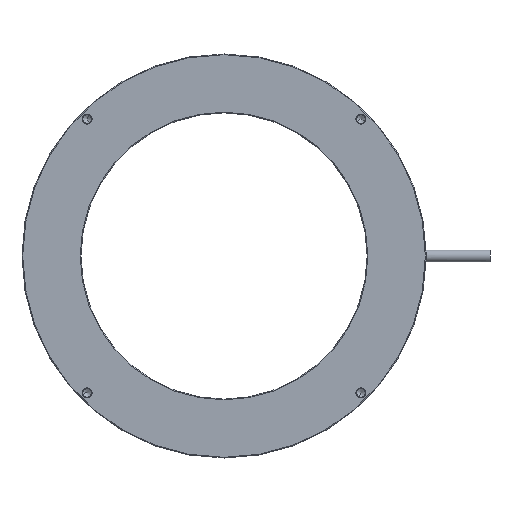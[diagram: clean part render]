
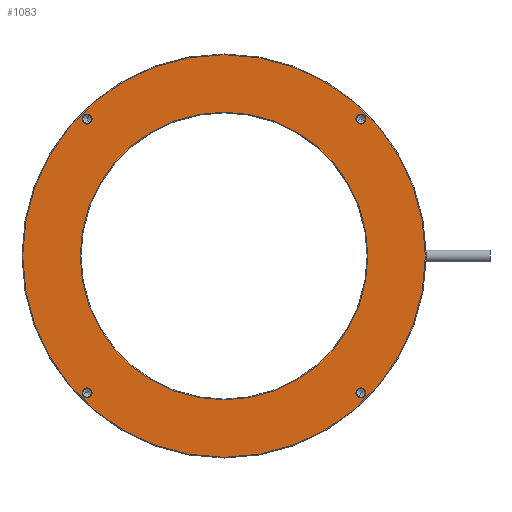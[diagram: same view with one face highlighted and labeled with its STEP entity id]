
A CAD part, front view. The second image highlights one B-rep face of the part: STEP entity #1083.
In plain terms, the highlighted planar face has unit normal (0, -1, 0).
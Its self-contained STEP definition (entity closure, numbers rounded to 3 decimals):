
#1=CARTESIAN_POINT('',(0.,-9.,0.));
#2=DIRECTION('',(0.,1.,0.));
#3=DIRECTION('',(-1.,0.,0.));
#4=AXIS2_PLACEMENT_3D('',#1,#2,#3);
#14=CARTESIAN_POINT('',(0.,-9.,0.));
#15=DIRECTION('',(0.,-1.,0.));
#16=DIRECTION('',(-1.,0.,0.));
#17=AXIS2_PLACEMENT_3D('',#14,#15,#16);
#313=CARTESIAN_POINT('',(0.,-9.,0.));
#314=DIRECTION('',(0.,-1.,0.));
#315=DIRECTION('',(-1.,0.,0.));
#316=AXIS2_PLACEMENT_3D('',#313,#314,#315);
#318=CARTESIAN_POINT('',(0.,-9.,0.));
#319=DIRECTION('',(0.,1.,0.));
#320=DIRECTION('',(-1.,0.,0.));
#321=AXIS2_PLACEMENT_3D('',#318,#319,#320);
#323=CARTESIAN_POINT('',(40.659,-9.,40.659));
#324=DIRECTION('',(0.,-1.,0.));
#325=DIRECTION('',(-1.,0.,0.));
#326=AXIS2_PLACEMENT_3D('',#323,#324,#325);
#328=CARTESIAN_POINT('',(40.659,-9.,40.659));
#329=DIRECTION('',(0.,-1.,0.));
#330=DIRECTION('',(1.,0.,0.));
#331=AXIS2_PLACEMENT_3D('',#328,#329,#330);
#333=CARTESIAN_POINT('',(40.659,-9.,-40.659));
#334=DIRECTION('',(0.,-1.,0.));
#335=DIRECTION('',(0.,0.,1.));
#336=AXIS2_PLACEMENT_3D('',#333,#334,#335);
#338=CARTESIAN_POINT('',(40.659,-9.,-40.659));
#339=DIRECTION('',(0.,-1.,0.));
#340=DIRECTION('',(0.,0.,-1.));
#341=AXIS2_PLACEMENT_3D('',#338,#339,#340);
#343=CARTESIAN_POINT('',(-40.659,-9.,
-40.659));
#344=DIRECTION('',(0.,-1.,0.));
#345=DIRECTION('',(1.,0.,0.));
#346=AXIS2_PLACEMENT_3D('',#343,#344,#345);
#348=CARTESIAN_POINT('',(-40.659,-9.,
-40.659));
#349=DIRECTION('',(0.,-1.,0.));
#350=DIRECTION('',(-1.,0.,0.));
#351=AXIS2_PLACEMENT_3D('',#348,#349,#350);
#353=CARTESIAN_POINT('',(-40.659,-9.,40.659));
#354=DIRECTION('',(0.,-1.,0.));
#355=DIRECTION('',(0.,0.,-1.));
#356=AXIS2_PLACEMENT_3D('',#353,#354,#355);
#358=CARTESIAN_POINT('',(-40.659,-9.,40.659));
#359=DIRECTION('',(0.,-1.,0.));
#360=DIRECTION('',(0.,0.,1.));
#361=AXIS2_PLACEMENT_3D('',#358,#359,#360);
#481=CARTESIAN_POINT('',(-42.7,-9.,0.));
#483=VERTEX_POINT('',#481);
#515=CARTESIAN_POINT('',(-59.8,-9.,0.));
#516=VERTEX_POINT('',#515);
#517=CARTESIAN_POINT('',(42.7,-9.,0.));
#519=VERTEX_POINT('',#517);
#550=CARTESIAN_POINT('',(59.8,-9.,0.));
#552=VERTEX_POINT('',#550);
#559=CARTESIAN_POINT('',(39.409,-9.,40.659));
#560=CARTESIAN_POINT('',(41.909,-9.,40.659));
#561=VERTEX_POINT('',#559);
#562=VERTEX_POINT('',#560);
#569=CARTESIAN_POINT('',(40.659,-9.,-39.409));
#570=CARTESIAN_POINT('',(40.659,-9.,-41.909));
#571=VERTEX_POINT('',#569);
#572=VERTEX_POINT('',#570);
#579=CARTESIAN_POINT('',(-39.409,-9.,
-40.659));
#580=CARTESIAN_POINT('',(-41.909,-9.,
-40.659));
#581=VERTEX_POINT('',#579);
#582=VERTEX_POINT('',#580);
#589=CARTESIAN_POINT('',(-40.659,-9.,39.409));
#590=CARTESIAN_POINT('',(-40.659,-9.,41.909));
#591=VERTEX_POINT('',#589);
#592=VERTEX_POINT('',#590);
#1046=CARTESIAN_POINT('',(0.,-9.,0.));
#1047=DIRECTION('',(0.,1.,0.));
#1048=DIRECTION('',(1.,0.,0.));
#1049=AXIS2_PLACEMENT_3D('',#1046,#1047,#1048);
#1050=PLANE('',#1049);
#1051=ORIENTED_EDGE('',*,*,#1039,.F.);
#1052=ORIENTED_EDGE('',*,*,#1028,.T.);
#1053=EDGE_LOOP('',(#1051,#1052));
#1054=FACE_OUTER_BOUND('',#1053,.F.);
#1055=ORIENTED_EDGE('',*,*,#608,.F.);
#1056=ORIENTED_EDGE('',*,*,#626,.T.);
#1057=EDGE_LOOP('',(#1055,#1056));
#1058=FACE_BOUND('',#1057,.F.);
#1060=ORIENTED_EDGE('',*,*,#1059,.T.);
#1062=ORIENTED_EDGE('',*,*,#1061,.T.);
#1063=EDGE_LOOP('',(#1060,#1062));
#1064=FACE_BOUND('',#1063,.F.);
#1066=ORIENTED_EDGE('',*,*,#1065,.T.);
#1068=ORIENTED_EDGE('',*,*,#1067,.T.);
#1069=EDGE_LOOP('',(#1066,#1068));
#1070=FACE_BOUND('',#1069,.F.);
#1072=ORIENTED_EDGE('',*,*,#1071,.T.);
#1074=ORIENTED_EDGE('',*,*,#1073,.T.);
#1075=EDGE_LOOP('',(#1072,#1074));
#1076=FACE_BOUND('',#1075,.F.);
#1078=ORIENTED_EDGE('',*,*,#1077,.T.);
#1080=ORIENTED_EDGE('',*,*,#1079,.T.);
#1081=EDGE_LOOP('',(#1078,#1080));
#1082=FACE_BOUND('',#1081,.F.);
#5=CIRCLE('',#4,42.7);
#18=CIRCLE('',#17,42.7);
#317=CIRCLE('',#316,59.8);
#322=CIRCLE('',#321,59.8);
#327=CIRCLE('',#326,1.25);
#332=CIRCLE('',#331,1.25);
#337=CIRCLE('',#336,1.25);
#342=CIRCLE('',#341,1.25);
#347=CIRCLE('',#346,1.25);
#352=CIRCLE('',#351,1.25);
#357=CIRCLE('',#356,1.25);
#362=CIRCLE('',#361,1.25);
#608=EDGE_CURVE('',#483,#519,#5,.T.);
#626=EDGE_CURVE('',#483,#519,#18,.T.);
#1028=EDGE_CURVE('',#516,#552,#322,.T.);
#1039=EDGE_CURVE('',#516,#552,#317,.T.);
#1059=EDGE_CURVE('',#561,#562,#327,.T.);
#1061=EDGE_CURVE('',#562,#561,#332,.T.);
#1065=EDGE_CURVE('',#571,#572,#337,.T.);
#1067=EDGE_CURVE('',#572,#571,#342,.T.);
#1071=EDGE_CURVE('',#581,#582,#347,.T.);
#1073=EDGE_CURVE('',#582,#581,#352,.T.);
#1077=EDGE_CURVE('',#591,#592,#357,.T.);
#1079=EDGE_CURVE('',#592,#591,#362,.T.);
#1083=ADVANCED_FACE('',(#1054,#1058,#1064,#1070,#1076,#1082),#1050,.F.);
